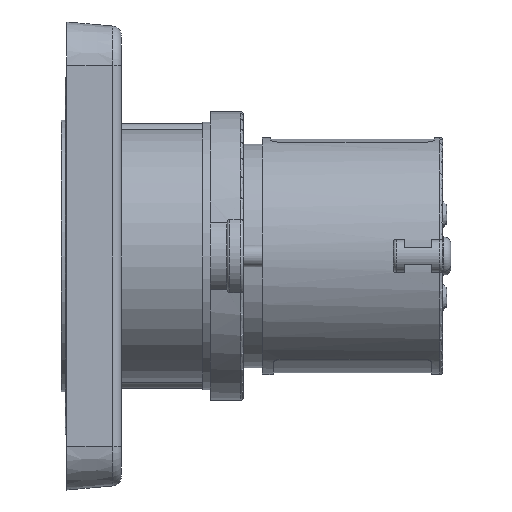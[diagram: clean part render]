
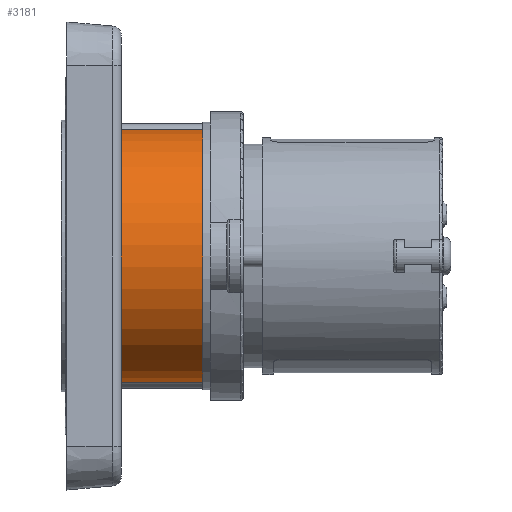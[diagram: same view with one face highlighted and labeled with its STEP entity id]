
A CAD part, left-side view. The second image highlights one B-rep face of the part: STEP entity #3181.
In plain terms, the highlighted cylindrical face has radius 23.25 mm (diameter 46.5 mm), a partial arc.
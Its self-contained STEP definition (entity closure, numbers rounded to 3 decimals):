
#95 = CARTESIAN_POINT ( 'NONE',  ( -8.833, 28.195, -23.146 ) ) ;
#127 = VERTEX_POINT ( 'NONE', #628 ) ;
#284 = CIRCLE ( 'NONE', #3392, 23.25 ) ;
#606 = DIRECTION ( 'NONE',  ( 0., 0., 1. ) ) ;
#628 = CARTESIAN_POINT ( 'NONE',  ( -8.833, 28.195, 23.146 ) ) ;
#833 = EDGE_CURVE ( 'NONE', #5646, #127, #6738, .T. ) ;
#853 = DIRECTION ( 'NONE',  ( 0., 1., 0. ) ) ;
#902 = CIRCLE ( 'NONE', #5474, 23.25 ) ;
#1505 = DIRECTION ( 'NONE',  ( 0., 0., -1. ) ) ;
#1597 = LINE ( 'NONE', #2742, #4712 ) ;
#2110 = ORIENTED_EDGE ( 'NONE', *, *, #6969, .T. ) ;
#2111 = DIRECTION ( 'NONE',  ( 0., 0., -1. ) ) ;
#2408 = DIRECTION ( 'NONE',  ( 0., 1., 0. ) ) ;
#2444 = AXIS2_PLACEMENT_3D ( 'NONE', #3696, #6188, #606 ) ;
#2682 = DIRECTION ( 'NONE',  ( 0., 1., 0. ) ) ;
#2742 = CARTESIAN_POINT ( 'NONE',  ( -8.833, 8.758, -23.146 ) ) ;
#3054 = VECTOR ( 'NONE', #2408, 1000. ) ;
#3181 = ADVANCED_FACE ( 'NONE', ( #5546 ), #5398, .T. ) ;
#3392 = AXIS2_PLACEMENT_3D ( 'NONE', #7059, #853, #1505 ) ;
#3696 = CARTESIAN_POINT ( 'NONE',  ( -6.633, -52.466, 0. ) ) ;
#4563 = CARTESIAN_POINT ( 'NONE',  ( -6.633, 13.295, 0. ) ) ;
#4584 = DIRECTION ( 'NONE',  ( 0., 1., 0. ) ) ;
#4605 = EDGE_LOOP ( 'NONE', ( #2110, #5041, #7854, #6534 ) ) ;
#4712 = VECTOR ( 'NONE', #4584, 1000. ) ;
#4940 = EDGE_CURVE ( 'NONE', #5866, #127, #284, .T. ) ;
#4966 = VERTEX_POINT ( 'NONE', #7134 ) ;
#4999 = CARTESIAN_POINT ( 'NONE',  ( -8.833, 8.758, 23.146 ) ) ;
#5041 = ORIENTED_EDGE ( 'NONE', *, *, #833, .T. ) ;
#5127 = EDGE_CURVE ( 'NONE', #4966, #5866, #1597, .T. ) ;
#5398 = CYLINDRICAL_SURFACE ( 'NONE', #2444, 23.25 ) ;
#5474 = AXIS2_PLACEMENT_3D ( 'NONE', #4563, #2682, #2111 ) ;
#5546 = FACE_OUTER_BOUND ( 'NONE', #4605, .T. ) ;
#5646 = VERTEX_POINT ( 'NONE', #7774 ) ;
#5866 = VERTEX_POINT ( 'NONE', #95 ) ;
#6188 = DIRECTION ( 'NONE',  ( 0., 1., 0. ) ) ;
#6534 = ORIENTED_EDGE ( 'NONE', *, *, #5127, .F. ) ;
#6738 = LINE ( 'NONE', #4999, #3054 ) ;
#6969 = EDGE_CURVE ( 'NONE', #4966, #5646, #902, .T. ) ;
#7059 = CARTESIAN_POINT ( 'NONE',  ( -6.633, 28.195, 0. ) ) ;
#7134 = CARTESIAN_POINT ( 'NONE',  ( -8.833, 13.295, -23.146 ) ) ;
#7774 = CARTESIAN_POINT ( 'NONE',  ( -8.833, 13.295, 23.146 ) ) ;
#7854 = ORIENTED_EDGE ( 'NONE', *, *, #4940, .F. ) ;
